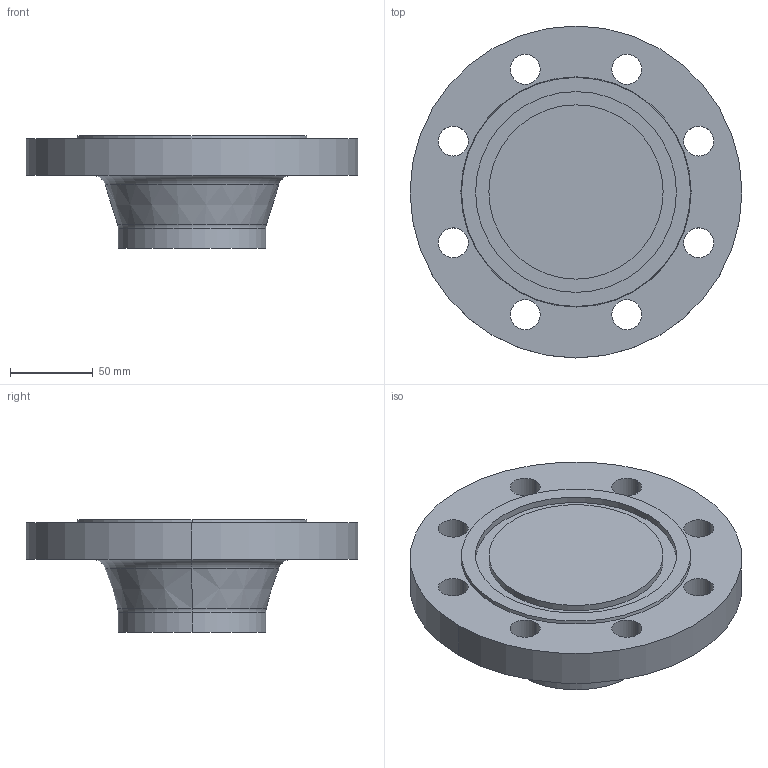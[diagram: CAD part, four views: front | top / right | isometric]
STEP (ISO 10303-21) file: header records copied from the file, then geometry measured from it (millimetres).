
FILE_DESCRIPTION (( 'STEP AP214' ), '1' );
FILE_NAME ('PN40 DN80 Type 21(ii) - Type D Face.STEP', '2019-01-01T19:29:47', ( '' ), ( '' ), 'SwSTEP 2.0', 'SolidWorks 2019', '' );
FILE_SCHEMA (( 'AUTOMOTIVE_DESIGN' ));
Length unit declared in the file: millimetre
Products named in the file (1): PN40 DN80 Type 21(ii) - Type D Face
Bounding box: 200 x 200 x 68 mm (x, y, z)
Volume: 985051.5 mm3; surface area: 96255.6 mm2
Topology: 1 solids, 1 shells, 38 faces, 90 edges, 58 vertices
Faces by surface type: cylinder 24, plane 6, torus 4, cone 4
Entity records: 1194 total; most frequent: DIRECTION 230, CARTESIAN_POINT 187, ORIENTED_EDGE 180, AXIS2_PLACEMENT_3D 101, EDGE_CURVE 90, CIRCLE 62, EDGE_LOOP 58, VERTEX_POINT 58
